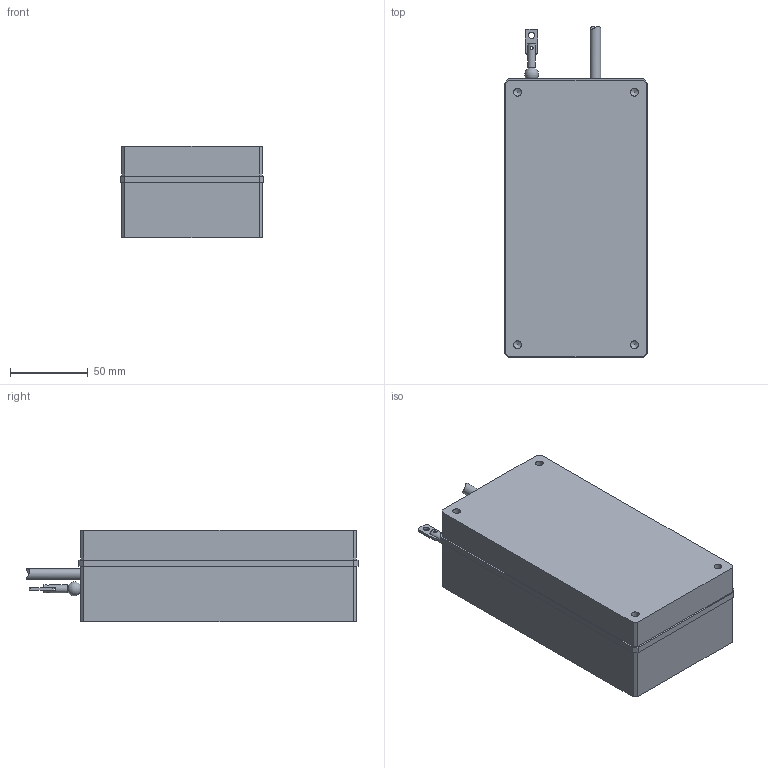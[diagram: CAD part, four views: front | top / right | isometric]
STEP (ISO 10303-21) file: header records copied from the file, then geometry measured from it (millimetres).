
FILE_DESCRIPTION(('STEP AP214'),'1');
FILE_NAME('.stp','2023-06-05T06:32:10',(' '),(' '),'Spatial InterOp 3D',' ',' ');
FILE_SCHEMA(('AUTOMOTIVE_DESIGN { 1 0 10303 214 1 1 1 1 }'));
Length unit declared in the file: millimetre
Products named in the file (1): L16F02A MLA-42-4096◎□-＊＊＊
Bounding box: 92 x 213 x 58.5 mm (x, y, z)
Volume: 933035 mm3; surface area: 67520.4 mm2
Topology: 2 solids, 2 shells, 90 faces, 225 edges, 144 vertices
Faces by surface type: plane 45, cylinder 30, cone 14, sphere 1
Full cylindrical faces by diameter (mm): 1 x1, 2 x2, 2.5 x1, 3 x2, 4 x1, 5 x17, 6.8 x1
Entity records: 3376 total; most frequent: CARTESIAN_POINT 621, DIRECTION 404, ORIENTED_EDGE 342, EDGE_CURVE 171, AXIS2_PLACEMENT_3D 150, EDGE_LOOP 142, VERTEX_POINT 137, FACE_OUTER_BOUND 116
